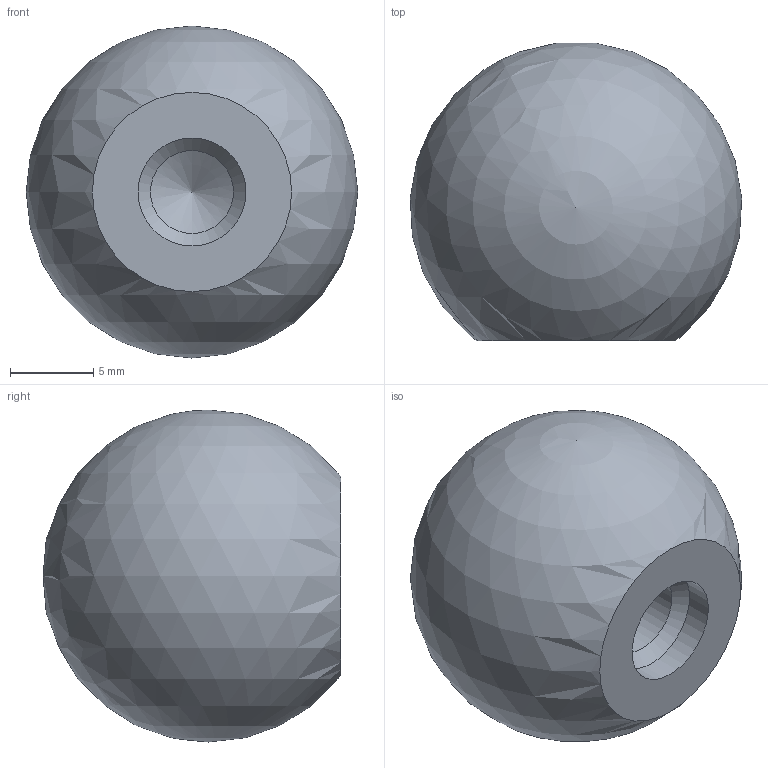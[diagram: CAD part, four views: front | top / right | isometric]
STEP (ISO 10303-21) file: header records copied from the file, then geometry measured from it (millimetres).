
FILE_DESCRIPTION (( 'STEP AP214' ), '1' );
FILE_NAME ('319-KU-20-M6-C.step', '2019-04-24T08:50:13', ( 'user' ), ( '' ), 'SwSTEP 2.0', 'SolidWorks 2019', '' );
FILE_SCHEMA (( 'AUTOMOTIVE_DESIGN' ));
Length unit declared in the file: millimetre
Products named in the file (1): 319-KU-20-M6-C
Bounding box: 19.97 x 17.93 x 20 mm (x, y, z)
Volume: 3838.8 mm3; surface area: 1405.8 mm2
Topology: 1 solids, 1 shells, 6 faces, 15 edges, 10 vertices
Faces by surface type: cone 2, cylinder 2, plane 1, sphere 1
Full cylindrical faces by diameter (mm): 5 x1, 6.5 x1
Entity records: 159 total; most frequent: DIRECTION 24, CARTESIAN_POINT 17, AXIS2_PLACEMENT_3D 12, ORIENTED_EDGE 10, EDGE_LOOP 10, FACE_OUTER_BOUND 8, ADVANCED_FACE 6, EDGE_CURVE 5
